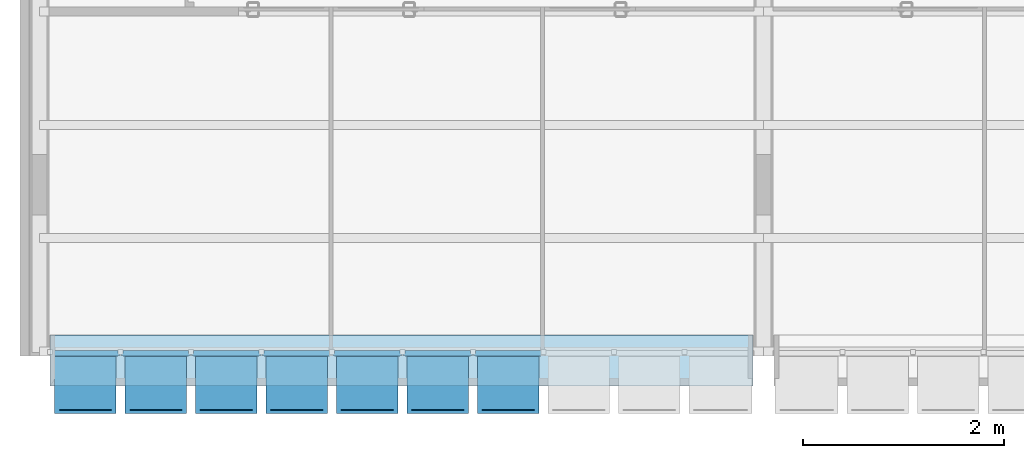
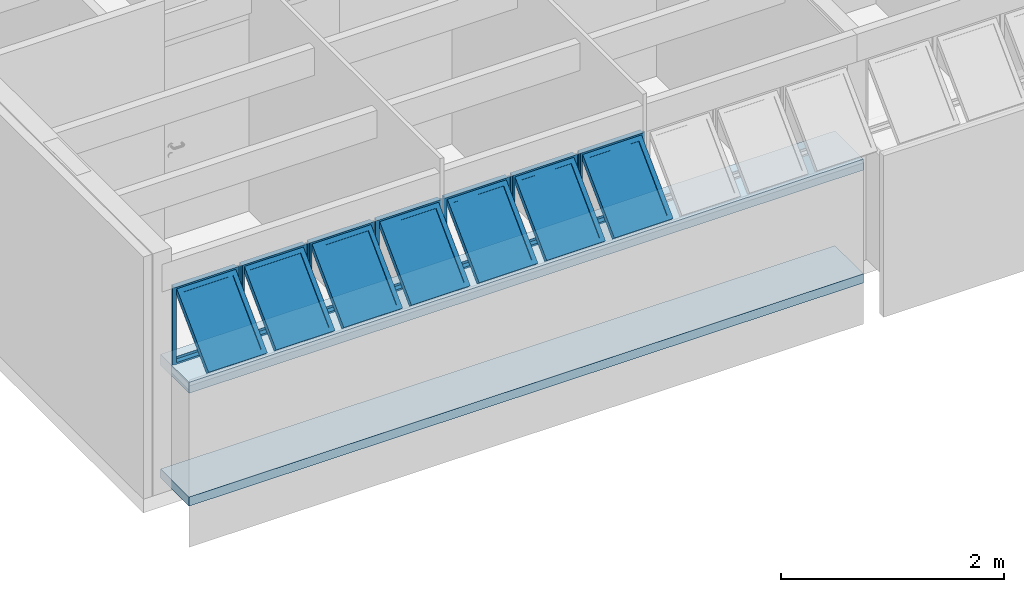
# One storey, part 4 of 41: 7 plates, 2 slabs, 1 element without a shape of its own.
"""IFC4 building model written with IfcOpenShell, lengths in millimetres."""

from ifc_helpers import new_model, entity, si_unit, converted_unit, derived_unit, direction, frame, origin_with_axes, place, context, subcontext, project, spatial, line, indexed_curve, outline, extrude, polygons, source, transform, mapped, material, layer, layer_set, layer_usage, constituent, constituent_set, type_object, element, aggregate, save


model = new_model("IFC4")

# Units and contexts
model_context = context("Model", 3, precision=0.01, world=origin_with_axes(), true_north=direction((0.0, 1.0)))
body_context = subcontext(model_context, "Body", "Model", "MODEL_VIEW")
ifc_project = project(units=[si_unit("LENGTHUNIT", "METRE", prefix="MILLI"), si_unit("AREAUNIT", "SQUARE_METRE"), si_unit("VOLUMEUNIT", "CUBIC_METRE"), converted_unit("PLANEANGLEUNIT", "DEGREE", entity("IfcPlaneAngleMeasure", 0.0174532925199), si_unit("PLANEANGLEUNIT", "RADIAN"), dimensions=[0, 0, 0, 0, 0, 0, 0]), converted_unit("TIMEUNIT", "Year", entity("IfcTimeMeasure", 31556926.0), si_unit("TIMEUNIT", "SECOND"), dimensions=[0, 0, 1, 0, 0, 0, 0]), si_unit("MASSUNIT", "GRAM", prefix="KILO"), si_unit("THERMODYNAMICTEMPERATUREUNIT", "DEGREE_CELSIUS"), si_unit("LUMINOUSINTENSITYUNIT", "LUMEN"), si_unit("ENERGYUNIT", "JOULE", prefix="MEGA"), derived_unit("THERMALCONDUCTANCEUNIT", [(si_unit("POWERUNIT", "WATT"), 1), (si_unit("LENGTHUNIT", "METRE"), -1), (si_unit("THERMODYNAMICTEMPERATUREUNIT", "KELVIN"), -1)]), derived_unit("SPECIFICHEATCAPACITYUNIT", [(si_unit("ENERGYUNIT", "JOULE"), 1), (si_unit("MASSUNIT", "GRAM", prefix="KILO"), -1), (si_unit("THERMODYNAMICTEMPERATUREUNIT", "KELVIN"), -1)]), derived_unit("MASSDENSITYUNIT", [(si_unit("MASSUNIT", "GRAM", prefix="KILO"), 1), (si_unit("VOLUMEUNIT", "CUBIC_METRE"), -1)])], contexts=[model_context])

# Site, building, storey
site_placement = place(None, origin_with_axes())
site = spatial("IfcSite", under=ifc_project, at=site_placement, Name="Local", CompositionType="ELEMENT")
building_placement = place(site_placement, origin_with_axes())
building = spatial("IfcBuilding", under=site, at=building_placement, Name="Construção", CompositionType="ELEMENT")
storey_placement = place(building_placement, frame((0.0, 0.0, 2650.0), z_axis=(0.0, 0.0, 1.0), x_axis=(1.0, 0.0, 0.0)))
storey = spatial("IfcBuildingStorey", under=building, at=storey_placement, Name="Segundo Pavimento", CompositionType="ELEMENT", Elevation=2650.0)

# Slab
ifc_material_1 = material(Name="Concreto Armado Moldado in Loco - Estrutural")
ifc_layer_1 = layer(ifc_material_1, 120.0, ventilated="UNKNOWN", Name="Concreto Armado Moldado in Loco - Estrutural")
ifc_layer_set_1 = layer_set([ifc_layer_1], Name="Concreto Armado Moldado in Loco - Estrutural 120")
ifc_layer_usage_1 = layer_usage(ifc_layer_set_1, "AXIS3", "NEGATIVE", 120.0)
slab_type_1 = type_object("IfcSlabType", Name="Concreto Armado Moldado in Loco - Estrutural 120", PredefinedType="FLOOR")
slab_1_placement = place(storey_placement, frame((300.0, 0.0, 1355.0), z_axis=(0.0, 0.0, 1.0), x_axis=(1.0, 0.0, 0.0)))
element("IfcSlab", 1, at=slab_1_placement, inside=storey, type_object=slab_type_1, material=ifc_layer_usage_1, Name="APTO5-LAJE-002", PredefinedType="FLOOR", context=body_context, shape_type="SweptSolid", body=[
    extrude(outline(indexed_curve([(0.0, 0.0), (6980.0, 0.0), (6980.0, 510.0), (0.0, 510.0)], segments=[line(1, 2, 3, 4, 1)])), frame((0.0, 0.0, -120.0), z_axis=(0.0, 0.0, 1.0), x_axis=(1.0, 0.0, 0.0)), (0.0, 0.0, 1.0), 120.0),
])

# Window, plates
window_type = type_object("IfcWindowType", Name="Tipo de Parede Cortina", PartitioningType="NOTDEFINED", PredefinedType="NOTDEFINED")
window_placement = place(storey_placement, frame((6250.0, 315.020977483, 1355.02054151), z_axis=(0.0, 0.0, 1.0), x_axis=(1.0, 0.0, 0.0)))
window = element("IfcWindow", 2, at=window_placement, inside=storey, type_object=window_type, Name="APTO5-JANELA-001", PredefinedType="NOTDEFINED")
ifc_material_2 = material(Name="Alumínio")
ifc_constituent_1 = constituent(ifc_material_2, Name="Alumínio")
ifc_material_3 = material(Name="Vidro")
ifc_constituent_2 = constituent(ifc_material_3, Name="Vidro")
ifc_constituent_set_1 = constituent_set(constituents=[ifc_constituent_1, ifc_constituent_2])
plate_type = type_object("IfcPlateType", Name="Painel Principal 690 x 845 x 20", PredefinedType="CURTAIN_PANEL")
shared_shape_1 = source(origin_with_axes(), body_context, "Body", "Tessellation", [
    polygons([(25.0000036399, 0.0, -40.0), (674.999997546, 0.0, -40.0), (674.999997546, 0.0, -35.0), (25.0000036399, 0.0, -35.0), (70.0000036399, 45.0, -40.0), (629.999997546, 45.0, -40.0), (629.999997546, 45.0, -35.0), (70.0000036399, 45.0, -35.0)], [[[1, 2, 3, 4]], [[1, 5, 6, 2]], [[2, 6, 7, 3]], [[4, 3, 7, 8]], [[5, 1, 4, 8]], [[6, 5, 8, 7]]], closed=True),
    polygons([(674.999997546, 0.0, -40.0), (674.999997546, 844.999891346, -40.0), (674.999997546, 844.999891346, -35.0), (674.999997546, 0.0, -35.0), (629.999997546, 45.0, -40.0), (629.999997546, 799.999891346, -40.0), (629.999997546, 799.999891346, -35.0), (629.999997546, 45.0, -35.0)], [[[1, 2, 3, 4]], [[1, 5, 6, 2]], [[2, 6, 7, 3]], [[4, 3, 7, 8]], [[5, 1, 4, 8]], [[6, 5, 8, 7]]], closed=True),
    polygons([(25.0000036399, 844.999891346, -40.0), (70.0000036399, 799.999891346, -40.0), (70.0000036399, 799.999891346, -35.0), (25.0000036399, 844.999891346, -35.0), (674.999997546, 844.999891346, -40.0), (629.999997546, 799.999891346, -40.0), (629.999997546, 799.999891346, -35.0), (674.999997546, 844.999891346, -35.0)], [[[1, 2, 3, 4]], [[1, 5, 6, 2]], [[2, 6, 7, 3]], [[4, 3, 7, 8]], [[5, 1, 4, 8]], [[6, 5, 8, 7]]], closed=True),
    polygons([(25.0000036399, 0.0, -40.0), (70.0000036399, 45.0, -40.0), (70.0000036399, 45.0, -35.0), (25.0000036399, 0.0, -35.0), (25.0000036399, 844.999891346, -40.0), (70.0000036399, 799.999891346, -40.0), (70.0000036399, 799.999891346, -35.0), (25.0000036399, 844.999891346, -35.0)], [[[1, 2, 3, 4]], [[1, 5, 6, 2]], [[2, 6, 7, 3]], [[4, 3, 7, 8]], [[5, 1, 4, 8]], [[6, 5, 8, 7]]], closed=True),
    polygons([(25.0000036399, 0.0, -35.0), (674.999997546, 0.0, -35.0), (674.999997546, 0.0, 15.0), (25.0000036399, 0.0, 15.0), (45.0000036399, 20.0, -35.0), (654.999997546, 20.0, -35.0), (654.999997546, 20.0, 15.0), (45.0000036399, 20.0, 15.0)], [[[1, 2, 3, 4]], [[1, 5, 6, 2]], [[2, 6, 7, 3]], [[4, 3, 7, 8]], [[5, 1, 4, 8]], [[6, 5, 8, 7]]], closed=True),
    polygons([(674.999997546, 0.0, -35.0), (674.999997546, 844.999891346, -35.0), (674.999997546, 844.999891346, 15.0), (674.999997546, 0.0, 15.0), (654.999997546, 20.0, -35.0), (654.999997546, 824.999891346, -35.0), (654.999997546, 824.999891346, 15.0), (654.999997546, 20.0, 15.0)], [[[1, 2, 3, 4]], [[1, 5, 6, 2]], [[2, 6, 7, 3]], [[4, 3, 7, 8]], [[5, 1, 4, 8]], [[6, 5, 8, 7]]], closed=True),
    polygons([(25.0000036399, 844.999891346, -35.0), (45.0000036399, 824.999891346, -35.0), (45.0000036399, 824.999891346, 15.0), (25.0000036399, 844.999891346, 15.0), (674.999997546, 844.999891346, -35.0), (654.999997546, 824.999891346, -35.0), (654.999997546, 824.999891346, 15.0), (674.999997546, 844.999891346, 15.0)], [[[1, 2, 3, 4]], [[1, 5, 6, 2]], [[2, 6, 7, 3]], [[4, 3, 7, 8]], [[5, 1, 4, 8]], [[6, 5, 8, 7]]], closed=True),
    polygons([(25.0000036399, 0.0, -35.0), (45.0000036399, 20.0, -35.0), (45.0000036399, 20.0, 15.0), (25.0000036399, 0.0, 15.0), (25.0000036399, 844.999891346, -35.0), (45.0000036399, 824.999891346, -35.0), (45.0000036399, 824.999891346, 15.0), (25.0000036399, 844.999891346, 15.0)], [[[1, 2, 3, 4]], [[1, 5, 6, 2]], [[2, 6, 7, 3]], [[4, 3, 7, 8]], [[5, 1, 4, 8]], [[6, 5, 8, 7]]], closed=True),
    polygons([(694.999995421, 0.0, -10.0), (694.999995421, 844.999891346, -10.0), (694.999995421, 844.999891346, 10.0), (694.999995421, 0.0, 10.0), (674.999997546, 0.0, -10.0), (674.999997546, 844.999891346, -10.0), (674.999997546, 844.999891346, 10.0), (674.999997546, 0.0, 10.0)], [[[1, 2, 3, 4]], [[1, 5, 6, 2]], [[2, 6, 7, 3]], [[4, 3, 7, 8]], [[5, 1, 4, 8]], [[6, 5, 8, 7]]], closed=True),
    polygons([(5.00000576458, 844.999891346, -10.0), (5.00000576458, 0.0, -10.0), (5.00000576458, 0.0, 10.0), (5.00000576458, 844.999891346, 10.0), (25.0000036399, 844.999891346, -10.0), (25.0000036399, 0.0, -10.0), (25.0000036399, 0.0, 10.0), (25.0000036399, 844.999891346, 10.0)], [[[1, 2, 3, 4]], [[1, 5, 6, 2]], [[2, 6, 7, 3]], [[4, 3, 7, 8]], [[5, 1, 4, 8]], [[6, 5, 8, 7]]], closed=True),
    polygons([(90.0000036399, 252.243475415, 517.045737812), (90.0000036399, 757.824747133, 11.4644660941), (90.0000036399, 796.715620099, 50.3553390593), (90.0000036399, 291.13434838, 555.936610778), (45.0000036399, 220.423670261, 548.865542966), (45.0000036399, 789.644552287, -20.3553390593), (45.0000036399, 828.535425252, 18.5355339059), (45.0000036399, 259.314543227, 587.756415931)], [[[1, 2, 3, 4]], [[1, 5, 6, 2]], [[2, 6, 7, 3]], [[4, 3, 7, 8]], [[5, 1, 4, 8]], [[6, 5, 8, 7]]], closed=True),
    polygons([(654.999997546, 220.423670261, 548.865542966), (654.999997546, 789.644552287, -20.3553390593), (654.999997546, 828.535425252, 18.5355339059), (654.999997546, 259.314543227, 587.756415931), (609.999997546, 252.243475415, 517.045737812), (609.999997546, 757.824747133, 11.4644660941), (609.999997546, 796.715620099, 50.3553390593), (609.999997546, 291.13434838, 555.936610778)], [[[1, 2, 3, 4]], [[1, 5, 6, 2]], [[2, 6, 7, 3]], [[4, 3, 7, 8]], [[5, 1, 4, 8]], [[6, 5, 8, 7]]], closed=True),
    polygons([(654.999997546, 220.423670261, 548.865542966), (609.999997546, 252.243475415, 517.045737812), (609.999997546, 291.13434838, 555.936610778), (654.999997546, 259.314543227, 587.756415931), (45.0000036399, 220.423670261, 548.865542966), (90.0000036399, 252.243475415, 517.045737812), (90.0000036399, 291.13434838, 555.936610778), (45.0000036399, 259.314543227, 587.756415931)], [[[1, 2, 3, 4]], [[1, 5, 6, 2]], [[2, 6, 7, 3]], [[4, 3, 7, 8]], [[5, 1, 4, 8]], [[6, 5, 8, 7]]], closed=True),
    polygons([(45.0000036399, 789.644552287, -20.3553390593), (90.0000036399, 757.824747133, 11.4644660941), (90.0000036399, 796.715620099, 50.3553390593), (45.0000036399, 828.535425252, 18.5355339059), (654.999997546, 789.644552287, -20.3553390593), (609.999997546, 757.824747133, 11.4644660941), (609.999997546, 796.715620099, 50.3553390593), (654.999997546, 828.535425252, 18.5355339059)], [[[1, 2, 3, 4]], [[1, 5, 6, 2]], [[2, 6, 7, 3]], [[4, 3, 7, 8]], [[5, 1, 4, 8]], [[6, 5, 8, 7]]], closed=True),
    polygons([(90.0000036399, 272.749572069, 537.551834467), (609.999997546, 272.749572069, 537.551834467), (609.999997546, 284.063280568, 548.865542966), (90.0000036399, 284.063280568, 548.865542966), (90.0000036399, 778.330843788, 31.9705627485), (609.999997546, 778.330843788, 31.9705627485), (609.999997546, 789.644552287, 43.2842712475), (90.0000036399, 789.644552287, 43.2842712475)], [[[1, 2, 3, 4]], [[1, 5, 6, 2]], [[2, 6, 7, 3]], [[4, 3, 7, 8]], [[5, 1, 4, 8]], [[6, 5, 8, 7]]], closed=True),
])
plate_1_placement = place(window_placement, frame((-1400.0, 0.0, 422.499945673), z_axis=(0.0, 0.0, 1.0), x_axis=(-1.0, 0.0, 0.0)))
plate_1 = element("IfcPlate", 3, at=plate_1_placement, type_object=plate_type, material=ifc_constituent_set_1, Name="APTO5-Painel-Prin-029", PredefinedType="CURTAIN_PANEL", context=body_context, shape_type="MappedRepresentation", body=[
    mapped(shared_shape_1, transform((350.0, 0.0, -422.499945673), x_axis=(-1.0, 0.0, 0.0), y_axis=(0.0, 0.0, 1.0), z_axis=(0.0, 1.0, 0.0))),
])
ifc_constituent_3 = constituent(ifc_material_2, Name="Alumínio")
ifc_constituent_4 = constituent(ifc_material_3, Name="Vidro")
ifc_constituent_set_2 = constituent_set(constituents=[ifc_constituent_3, ifc_constituent_4])
plate_2_placement = place(window_placement, frame((-3500.0, 0.0, 422.499945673), z_axis=(0.0, 0.0, 1.0), x_axis=(-1.0, 0.0, 0.0)))
plate_2 = element("IfcPlate", 4, at=plate_2_placement, type_object=plate_type, material=ifc_constituent_set_2, Name="APTO5-Painel-Prin-013", PredefinedType="CURTAIN_PANEL", context=body_context, shape_type="MappedRepresentation", body=[
    mapped(shared_shape_1, transform((350.0, 0.0, -422.499945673), x_axis=(-1.0, 0.0, 0.0), y_axis=(0.0, 0.0, 1.0), z_axis=(0.0, 1.0, 0.0))),
])
ifc_constituent_5 = constituent(ifc_material_2, Name="Alumínio")
ifc_constituent_6 = constituent(ifc_material_3, Name="Vidro")
ifc_constituent_set_3 = constituent_set(constituents=[ifc_constituent_5, ifc_constituent_6])
shared_shape_2 = source(origin_with_axes(), body_context, "Body", "Tessellation", [
    polygons([(25.0000036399, 0.0, -40.0), (674.999997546, 0.0, -40.0), (674.999997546, 0.0, -35.0), (25.0000036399, 0.0, -35.0), (70.0000036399, 45.0, -40.0), (629.999997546, 45.0, -40.0), (629.999997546, 45.0, -35.0), (70.0000036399, 45.0, -35.0)], [[[1, 2, 3, 4]], [[1, 5, 6, 2]], [[2, 6, 7, 3]], [[4, 3, 7, 8]], [[5, 1, 4, 8]], [[6, 5, 8, 7]]], closed=True),
    polygons([(674.999997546, 0.0, -40.0), (674.999997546, 844.999891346, -40.0), (674.999997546, 844.999891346, -35.0), (674.999997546, 0.0, -35.0), (629.999997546, 45.0, -40.0), (629.999997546, 799.999891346, -40.0), (629.999997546, 799.999891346, -35.0), (629.999997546, 45.0, -35.0)], [[[1, 2, 3, 4]], [[1, 5, 6, 2]], [[2, 6, 7, 3]], [[4, 3, 7, 8]], [[5, 1, 4, 8]], [[6, 5, 8, 7]]], closed=True),
    polygons([(25.0000036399, 844.999891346, -40.0), (70.0000036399, 799.999891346, -40.0), (70.0000036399, 799.999891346, -35.0), (25.0000036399, 844.999891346, -35.0), (674.999997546, 844.999891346, -40.0), (629.999997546, 799.999891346, -40.0), (629.999997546, 799.999891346, -35.0), (674.999997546, 844.999891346, -35.0)], [[[1, 2, 3, 4]], [[1, 5, 6, 2]], [[2, 6, 7, 3]], [[4, 3, 7, 8]], [[5, 1, 4, 8]], [[6, 5, 8, 7]]], closed=True),
    polygons([(25.0000036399, 0.0, -40.0), (70.0000036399, 45.0, -40.0), (70.0000036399, 45.0, -35.0), (25.0000036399, 0.0, -35.0), (25.0000036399, 844.999891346, -40.0), (70.0000036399, 799.999891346, -40.0), (70.0000036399, 799.999891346, -35.0), (25.0000036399, 844.999891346, -35.0)], [[[1, 2, 3, 4]], [[1, 5, 6, 2]], [[2, 6, 7, 3]], [[4, 3, 7, 8]], [[5, 1, 4, 8]], [[6, 5, 8, 7]]], closed=True),
    polygons([(25.0000036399, 0.0, -35.0), (674.999997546, 0.0, -35.0), (674.999997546, 0.0, 15.0), (25.0000036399, 0.0, 15.0), (45.0000036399, 20.0, -35.0), (654.999997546, 20.0, -35.0), (654.999997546, 20.0, 15.0), (45.0000036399, 20.0, 15.0)], [[[1, 2, 3, 4]], [[1, 5, 6, 2]], [[2, 6, 7, 3]], [[4, 3, 7, 8]], [[5, 1, 4, 8]], [[6, 5, 8, 7]]], closed=True),
    polygons([(674.999997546, 0.0, -35.0), (674.999997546, 844.999891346, -35.0), (674.999997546, 844.999891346, 15.0), (674.999997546, 0.0, 15.0), (654.999997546, 20.0, -35.0), (654.999997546, 824.999891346, -35.0), (654.999997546, 824.999891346, 15.0), (654.999997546, 20.0, 15.0)], [[[1, 2, 3, 4]], [[1, 5, 6, 2]], [[2, 6, 7, 3]], [[4, 3, 7, 8]], [[5, 1, 4, 8]], [[6, 5, 8, 7]]], closed=True),
    polygons([(25.0000036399, 844.999891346, -35.0), (45.0000036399, 824.999891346, -35.0), (45.0000036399, 824.999891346, 15.0), (25.0000036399, 844.999891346, 15.0), (674.999997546, 844.999891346, -35.0), (654.999997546, 824.999891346, -35.0), (654.999997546, 824.999891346, 15.0), (674.999997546, 844.999891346, 15.0)], [[[1, 2, 3, 4]], [[1, 5, 6, 2]], [[2, 6, 7, 3]], [[4, 3, 7, 8]], [[5, 1, 4, 8]], [[6, 5, 8, 7]]], closed=True),
    polygons([(25.0000036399, 0.0, -35.0), (45.0000036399, 20.0, -35.0), (45.0000036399, 20.0, 15.0), (25.0000036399, 0.0, 15.0), (25.0000036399, 844.999891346, -35.0), (45.0000036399, 824.999891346, -35.0), (45.0000036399, 824.999891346, 15.0), (25.0000036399, 844.999891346, 15.0)], [[[1, 2, 3, 4]], [[1, 5, 6, 2]], [[2, 6, 7, 3]], [[4, 3, 7, 8]], [[5, 1, 4, 8]], [[6, 5, 8, 7]]], closed=True),
    polygons([(694.999995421, 0.0, -10.0), (694.999995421, 844.999891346, -10.0), (694.999995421, 844.999891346, 10.0), (694.999995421, 0.0, 10.0), (674.999997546, 0.0, -10.0), (674.999997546, 844.999891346, -10.0), (674.999997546, 844.999891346, 10.0), (674.999997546, 0.0, 10.0)], [[[1, 2, 3, 4]], [[1, 5, 6, 2]], [[2, 6, 7, 3]], [[4, 3, 7, 8]], [[5, 1, 4, 8]], [[6, 5, 8, 7]]], closed=True),
    polygons([(5.00000576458, 844.999891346, -10.0), (5.00000576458, 0.0, -10.0), (5.00000576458, 0.0, 10.0), (5.00000576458, 844.999891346, 10.0), (25.0000036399, 844.999891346, -10.0), (25.0000036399, 0.0, -10.0), (25.0000036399, 0.0, 10.0), (25.0000036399, 844.999891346, 10.0)], [[[1, 2, 3, 4]], [[1, 5, 6, 2]], [[2, 6, 7, 3]], [[4, 3, 7, 8]], [[5, 1, 4, 8]], [[6, 5, 8, 7]]], closed=True),
    polygons([(90.0000036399, 252.243475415, 517.045737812), (90.0000036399, 757.824747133, 11.4644660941), (90.0000036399, 796.715620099, 50.3553390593), (90.0000036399, 291.13434838, 555.936610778), (45.0000036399, 220.423670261, 548.865542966), (45.0000036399, 789.644552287, -20.3553390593), (45.0000036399, 828.535425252, 18.5355339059), (45.0000036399, 259.314543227, 587.756415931)], [[[1, 2, 3, 4]], [[1, 5, 6, 2]], [[2, 6, 7, 3]], [[4, 3, 7, 8]], [[5, 1, 4, 8]], [[6, 5, 8, 7]]], closed=True),
    polygons([(654.999997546, 220.423670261, 548.865542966), (654.999997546, 789.644552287, -20.3553390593), (654.999997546, 828.535425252, 18.5355339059), (654.999997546, 259.314543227, 587.756415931), (609.999997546, 252.243475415, 517.045737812), (609.999997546, 757.824747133, 11.4644660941), (609.999997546, 796.715620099, 50.3553390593), (609.999997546, 291.13434838, 555.936610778)], [[[1, 2, 3, 4]], [[1, 5, 6, 2]], [[2, 6, 7, 3]], [[4, 3, 7, 8]], [[5, 1, 4, 8]], [[6, 5, 8, 7]]], closed=True),
    polygons([(654.999997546, 220.423670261, 548.865542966), (609.999997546, 252.243475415, 517.045737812), (609.999997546, 291.13434838, 555.936610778), (654.999997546, 259.314543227, 587.756415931), (45.0000036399, 220.423670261, 548.865542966), (90.0000036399, 252.243475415, 517.045737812), (90.0000036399, 291.13434838, 555.936610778), (45.0000036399, 259.314543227, 587.756415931)], [[[1, 2, 3, 4]], [[1, 5, 6, 2]], [[2, 6, 7, 3]], [[4, 3, 7, 8]], [[5, 1, 4, 8]], [[6, 5, 8, 7]]], closed=True),
    polygons([(45.0000036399, 789.644552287, -20.3553390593), (90.0000036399, 757.824747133, 11.4644660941), (90.0000036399, 796.715620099, 50.3553390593), (45.0000036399, 828.535425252, 18.5355339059), (654.999997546, 789.644552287, -20.3553390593), (609.999997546, 757.824747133, 11.4644660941), (609.999997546, 796.715620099, 50.3553390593), (654.999997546, 828.535425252, 18.5355339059)], [[[1, 2, 3, 4]], [[1, 5, 6, 2]], [[2, 6, 7, 3]], [[4, 3, 7, 8]], [[5, 1, 4, 8]], [[6, 5, 8, 7]]], closed=True),
    polygons([(90.0000036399, 272.749572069, 537.551834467), (609.999997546, 272.749572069, 537.551834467), (609.999997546, 284.063280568, 548.865542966), (90.0000036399, 284.063280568, 548.865542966), (90.0000036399, 778.330843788, 31.9705627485), (609.999997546, 778.330843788, 31.9705627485), (609.999997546, 789.644552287, 43.2842712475), (90.0000036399, 789.644552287, 43.2842712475)], [[[1, 2, 3, 4]], [[1, 5, 6, 2]], [[2, 6, 7, 3]], [[4, 3, 7, 8]], [[5, 1, 4, 8]], [[6, 5, 8, 7]]], closed=True),
])
plate_3_placement = place(window_placement, frame((-5600.0, 0.0, 422.499945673), z_axis=(0.0, 0.0, 1.0), x_axis=(-1.0, 0.0, 0.0)))
plate_3 = element("IfcPlate", 5, at=plate_3_placement, type_object=plate_type, material=ifc_constituent_set_3, Name="APTO5-Painel-Prin-013", PredefinedType="CURTAIN_PANEL", context=body_context, shape_type="MappedRepresentation", body=[
    mapped(shared_shape_2, transform((350.0, 0.0, -422.499945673), x_axis=(-1.0, 0.0, 0.0), y_axis=(0.0, 0.0, 1.0), z_axis=(0.0, 1.0, 0.0))),
])
ifc_constituent_7 = constituent(ifc_material_2, Name="Alumínio")
ifc_constituent_8 = constituent(ifc_material_3, Name="Vidro")
ifc_constituent_set_4 = constituent_set(constituents=[ifc_constituent_7, ifc_constituent_8])
plate_4_placement = place(window_placement, frame((-4900.0, 0.0, 422.499945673), z_axis=(0.0, 0.0, 1.0), x_axis=(-1.0, 0.0, 0.0)))
plate_4 = element("IfcPlate", 6, at=plate_4_placement, type_object=plate_type, material=ifc_constituent_set_4, Name="APTO5-Painel-Prin-013", PredefinedType="CURTAIN_PANEL", context=body_context, shape_type="MappedRepresentation", body=[
    mapped(shared_shape_2, transform((350.0, 0.0, -422.499945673), x_axis=(-1.0, 0.0, 0.0), y_axis=(0.0, 0.0, 1.0), z_axis=(0.0, 1.0, 0.0))),
])
ifc_constituent_9 = constituent(ifc_material_2, Name="Alumínio")
ifc_constituent_10 = constituent(ifc_material_3, Name="Vidro")
ifc_constituent_set_5 = constituent_set(constituents=[ifc_constituent_9, ifc_constituent_10])
plate_5_placement = place(window_placement, frame((-2100.0, 0.0, 422.499945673), z_axis=(0.0, 0.0, 1.0), x_axis=(-1.0, 0.0, 0.0)))
plate_5 = element("IfcPlate", 7, at=plate_5_placement, type_object=plate_type, material=ifc_constituent_set_5, Name="APTO5-Painel-Prin-025", PredefinedType="CURTAIN_PANEL", context=body_context, shape_type="MappedRepresentation", body=[
    mapped(shared_shape_2, transform((350.0, 0.0, -422.499945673), x_axis=(-1.0, 0.0, 0.0), y_axis=(0.0, 0.0, 1.0), z_axis=(0.0, 1.0, 0.0))),
])
ifc_constituent_11 = constituent(ifc_material_2, Name="Alumínio")
ifc_constituent_12 = constituent(ifc_material_3, Name="Vidro")
ifc_constituent_set_6 = constituent_set(constituents=[ifc_constituent_11, ifc_constituent_12])
shared_shape_3 = source(origin_with_axes(), body_context, "Body", "Tessellation", [
    polygons([(25.0000036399, 0.0, -40.0), (674.999997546, 0.0, -40.0), (674.999997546, 0.0, -35.0), (25.0000036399, 0.0, -35.0), (70.0000036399, 45.0, -40.0), (629.999997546, 45.0, -40.0), (629.999997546, 45.0, -35.0), (70.0000036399, 45.0, -35.0)], [[[1, 2, 3, 4]], [[1, 5, 6, 2]], [[2, 6, 7, 3]], [[4, 3, 7, 8]], [[5, 1, 4, 8]], [[6, 5, 8, 7]]], closed=True),
    polygons([(674.999997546, 0.0, -40.0), (674.999997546, 844.999891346, -40.0), (674.999997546, 844.999891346, -35.0), (674.999997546, 0.0, -35.0), (629.999997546, 45.0, -40.0), (629.999997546, 799.999891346, -40.0), (629.999997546, 799.999891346, -35.0), (629.999997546, 45.0, -35.0)], [[[1, 2, 3, 4]], [[1, 5, 6, 2]], [[2, 6, 7, 3]], [[4, 3, 7, 8]], [[5, 1, 4, 8]], [[6, 5, 8, 7]]], closed=True),
    polygons([(25.0000036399, 844.999891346, -40.0), (70.0000036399, 799.999891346, -40.0), (70.0000036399, 799.999891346, -35.0), (25.0000036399, 844.999891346, -35.0), (674.999997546, 844.999891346, -40.0), (629.999997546, 799.999891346, -40.0), (629.999997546, 799.999891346, -35.0), (674.999997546, 844.999891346, -35.0)], [[[1, 2, 3, 4]], [[1, 5, 6, 2]], [[2, 6, 7, 3]], [[4, 3, 7, 8]], [[5, 1, 4, 8]], [[6, 5, 8, 7]]], closed=True),
    polygons([(25.0000036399, 0.0, -40.0), (70.0000036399, 45.0, -40.0), (70.0000036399, 45.0, -35.0), (25.0000036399, 0.0, -35.0), (25.0000036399, 844.999891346, -40.0), (70.0000036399, 799.999891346, -40.0), (70.0000036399, 799.999891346, -35.0), (25.0000036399, 844.999891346, -35.0)], [[[1, 2, 3, 4]], [[1, 5, 6, 2]], [[2, 6, 7, 3]], [[4, 3, 7, 8]], [[5, 1, 4, 8]], [[6, 5, 8, 7]]], closed=True),
    polygons([(25.0000036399, 0.0, -35.0), (674.999997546, 0.0, -35.0), (674.999997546, 0.0, 15.0), (25.0000036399, 0.0, 15.0), (45.0000036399, 20.0, -35.0), (654.999997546, 20.0, -35.0), (654.999997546, 20.0, 15.0), (45.0000036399, 20.0, 15.0)], [[[1, 2, 3, 4]], [[1, 5, 6, 2]], [[2, 6, 7, 3]], [[4, 3, 7, 8]], [[5, 1, 4, 8]], [[6, 5, 8, 7]]], closed=True),
    polygons([(674.999997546, 0.0, -35.0), (674.999997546, 844.999891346, -35.0), (674.999997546, 844.999891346, 15.0), (674.999997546, 0.0, 15.0), (654.999997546, 20.0, -35.0), (654.999997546, 824.999891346, -35.0), (654.999997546, 824.999891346, 15.0), (654.999997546, 20.0, 15.0)], [[[1, 2, 3, 4]], [[1, 5, 6, 2]], [[2, 6, 7, 3]], [[4, 3, 7, 8]], [[5, 1, 4, 8]], [[6, 5, 8, 7]]], closed=True),
    polygons([(25.0000036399, 844.999891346, -35.0), (45.0000036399, 824.999891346, -35.0), (45.0000036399, 824.999891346, 15.0), (25.0000036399, 844.999891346, 15.0), (674.999997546, 844.999891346, -35.0), (654.999997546, 824.999891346, -35.0), (654.999997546, 824.999891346, 15.0), (674.999997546, 844.999891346, 15.0)], [[[1, 2, 3, 4]], [[1, 5, 6, 2]], [[2, 6, 7, 3]], [[4, 3, 7, 8]], [[5, 1, 4, 8]], [[6, 5, 8, 7]]], closed=True),
    polygons([(25.0000036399, 0.0, -35.0), (45.0000036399, 20.0, -35.0), (45.0000036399, 20.0, 15.0), (25.0000036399, 0.0, 15.0), (25.0000036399, 844.999891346, -35.0), (45.0000036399, 824.999891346, -35.0), (45.0000036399, 824.999891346, 15.0), (25.0000036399, 844.999891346, 15.0)], [[[1, 2, 3, 4]], [[1, 5, 6, 2]], [[2, 6, 7, 3]], [[4, 3, 7, 8]], [[5, 1, 4, 8]], [[6, 5, 8, 7]]], closed=True),
    polygons([(694.999995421, 0.0, -10.0), (694.999995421, 844.999891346, -10.0), (694.999995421, 844.999891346, 10.0), (694.999995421, 0.0, 10.0), (674.999997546, 0.0, -10.0), (674.999997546, 844.999891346, -10.0), (674.999997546, 844.999891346, 10.0), (674.999997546, 0.0, 10.0)], [[[1, 2, 3, 4]], [[1, 5, 6, 2]], [[2, 6, 7, 3]], [[4, 3, 7, 8]], [[5, 1, 4, 8]], [[6, 5, 8, 7]]], closed=True),
    polygons([(5.00000576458, 844.999891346, -10.0), (5.00000576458, 0.0, -10.0), (5.00000576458, 0.0, 10.0), (5.00000576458, 844.999891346, 10.0), (25.0000036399, 844.999891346, -10.0), (25.0000036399, 0.0, -10.0), (25.0000036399, 0.0, 10.0), (25.0000036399, 844.999891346, 10.0)], [[[1, 2, 3, 4]], [[1, 5, 6, 2]], [[2, 6, 7, 3]], [[4, 3, 7, 8]], [[5, 1, 4, 8]], [[6, 5, 8, 7]]], closed=True),
    polygons([(90.0000036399, 252.243475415, 517.045737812), (90.0000036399, 757.824747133, 11.4644660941), (90.0000036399, 796.715620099, 50.3553390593), (90.0000036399, 291.13434838, 555.936610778), (45.0000036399, 220.423670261, 548.865542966), (45.0000036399, 789.644552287, -20.3553390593), (45.0000036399, 828.535425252, 18.5355339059), (45.0000036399, 259.314543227, 587.756415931)], [[[1, 2, 3, 4]], [[1, 5, 6, 2]], [[2, 6, 7, 3]], [[4, 3, 7, 8]], [[5, 1, 4, 8]], [[6, 5, 8, 7]]], closed=True),
    polygons([(654.999997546, 220.423670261, 548.865542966), (654.999997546, 789.644552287, -20.3553390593), (654.999997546, 828.535425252, 18.5355339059), (654.999997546, 259.314543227, 587.756415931), (609.999997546, 252.243475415, 517.045737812), (609.999997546, 757.824747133, 11.4644660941), (609.999997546, 796.715620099, 50.3553390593), (609.999997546, 291.13434838, 555.936610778)], [[[1, 2, 3, 4]], [[1, 5, 6, 2]], [[2, 6, 7, 3]], [[4, 3, 7, 8]], [[5, 1, 4, 8]], [[6, 5, 8, 7]]], closed=True),
    polygons([(654.999997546, 220.423670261, 548.865542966), (609.999997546, 252.243475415, 517.045737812), (609.999997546, 291.13434838, 555.936610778), (654.999997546, 259.314543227, 587.756415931), (45.0000036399, 220.423670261, 548.865542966), (90.0000036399, 252.243475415, 517.045737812), (90.0000036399, 291.13434838, 555.936610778), (45.0000036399, 259.314543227, 587.756415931)], [[[1, 2, 3, 4]], [[1, 5, 6, 2]], [[2, 6, 7, 3]], [[4, 3, 7, 8]], [[5, 1, 4, 8]], [[6, 5, 8, 7]]], closed=True),
    polygons([(45.0000036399, 789.644552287, -20.3553390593), (90.0000036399, 757.824747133, 11.4644660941), (90.0000036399, 796.715620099, 50.3553390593), (45.0000036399, 828.535425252, 18.5355339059), (654.999997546, 789.644552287, -20.3553390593), (609.999997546, 757.824747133, 11.4644660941), (609.999997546, 796.715620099, 50.3553390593), (654.999997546, 828.535425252, 18.5355339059)], [[[1, 2, 3, 4]], [[1, 5, 6, 2]], [[2, 6, 7, 3]], [[4, 3, 7, 8]], [[5, 1, 4, 8]], [[6, 5, 8, 7]]], closed=True),
    polygons([(90.0000036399, 272.749572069, 537.551834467), (609.999997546, 272.749572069, 537.551834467), (609.999997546, 284.063280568, 548.865542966), (90.0000036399, 284.063280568, 548.865542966), (90.0000036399, 778.330843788, 31.9705627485), (609.999997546, 778.330843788, 31.9705627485), (609.999997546, 789.644552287, 43.2842712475), (90.0000036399, 789.644552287, 43.2842712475)], [[[1, 2, 3, 4]], [[1, 5, 6, 2]], [[2, 6, 7, 3]], [[4, 3, 7, 8]], [[5, 1, 4, 8]], [[6, 5, 8, 7]]], closed=True),
])
plate_6_placement = place(window_placement, frame((-2800.0, 0.0, 422.499945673), z_axis=(0.0, 0.0, 1.0), x_axis=(-1.0, 0.0, 0.0)))
plate_6 = element("IfcPlate", 8, at=plate_6_placement, type_object=plate_type, material=ifc_constituent_set_6, Name="APTO5-Painel-Prin-013", PredefinedType="CURTAIN_PANEL", context=body_context, shape_type="MappedRepresentation", body=[
    mapped(shared_shape_3, transform((350.0, 0.0, -422.499945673), x_axis=(-1.0, 0.0, 0.0), y_axis=(0.0, 0.0, 1.0), z_axis=(0.0, 1.0, 0.0))),
])
ifc_constituent_13 = constituent(ifc_material_2, Name="Alumínio")
ifc_constituent_14 = constituent(ifc_material_3, Name="Vidro")
ifc_constituent_set_7 = constituent_set(constituents=[ifc_constituent_13, ifc_constituent_14])
plate_7_placement = place(window_placement, frame((-4200.0, 0.0, 422.499945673), z_axis=(0.0, 0.0, 1.0), x_axis=(-1.0, 0.0, 0.0)))
plate_7 = element("IfcPlate", 9, at=plate_7_placement, type_object=plate_type, material=ifc_constituent_set_7, Name="APTO5-Painel-Prin-013", PredefinedType="CURTAIN_PANEL", context=body_context, shape_type="MappedRepresentation", body=[
    mapped(shared_shape_3, transform((350.0, 0.0, -422.499945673), x_axis=(-1.0, 0.0, 0.0), y_axis=(0.0, 0.0, 1.0), z_axis=(0.0, 1.0, 0.0))),
])
aggregate(window, [plate_3, plate_4, plate_6, plate_5, plate_7, plate_1, plate_2])

# Slab
ifc_layer_2 = layer(ifc_material_1, 100.0, ventilated="UNKNOWN", Name="Concreto Armado Moldado in Loco - Estrutural")
ifc_layer_set_2 = layer_set([ifc_layer_2], Name="Concreto Armado Moldado in Loco - Estrutural 100")
ifc_layer_usage_2 = layer_usage(ifc_layer_set_2, "AXIS3", "NEGATIVE", 100.0)
slab_type_2 = type_object("IfcSlabType", Name="Concreto Armado Moldado in Loco - Estrutural 100", PredefinedType="FLOOR")
slab_2_placement = place(storey_placement, frame((300.0, 0.0, 100.0), z_axis=(0.0, 0.0, 1.0), x_axis=(1.0, 0.0, 0.0)))
element("IfcSlab", 10, at=slab_2_placement, inside=storey, type_object=slab_type_2, material=ifc_layer_usage_2, Name="APTO5-LAJE-001", PredefinedType="FLOOR", context=body_context, shape_type="SweptSolid", body=[
    extrude(outline(indexed_curve([(0.0, 0.0), (6980.0, 0.0), (6980.0, 510.0), (0.0, 510.0)], segments=[line(1, 2, 3, 4, 1)])), frame((0.0, 0.0, -100.0), z_axis=(0.0, 0.0, 1.0), x_axis=(1.0, 0.0, 0.0)), (0.0, 0.0, 1.0), 100.0),
])

save(model, "model.ifc")
